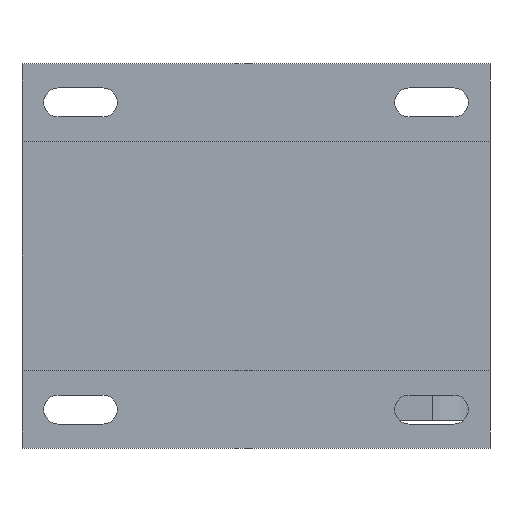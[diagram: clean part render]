
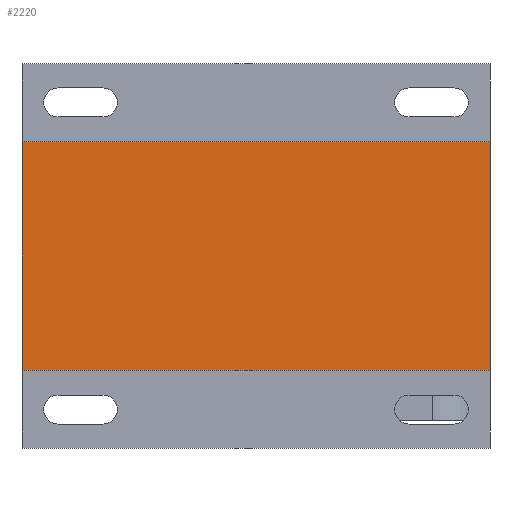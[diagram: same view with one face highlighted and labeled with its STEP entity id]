
A CAD part, front view. The second image highlights one B-rep face of the part: STEP entity #2220.
In plain terms, the highlighted planar face has unit normal (0, -1, 0).
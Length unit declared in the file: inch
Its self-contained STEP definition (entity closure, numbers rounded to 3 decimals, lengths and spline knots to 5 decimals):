
#101=PLANE('',#2369);
#183=FACE_OUTER_BOUND('',#312,.T.);
#312=EDGE_LOOP('',(#1616,#1617,#1618,#1619));
#524=LINE('',#3344,#736);
#528=LINE('',#3353,#740);
#530=LINE('',#3356,#742);
#531=LINE('',#3357,#743);
#736=VECTOR('',#2674,4.2);
#740=VECTOR('',#2680,4.2);
#742=VECTOR('',#2684,2.05);
#743=VECTOR('',#2685,2.05);
#1043=VERTEX_POINT('',#3341);
#1044=VERTEX_POINT('',#3343);
#1047=VERTEX_POINT('',#3350);
#1048=VERTEX_POINT('',#3352);
#1282=EDGE_CURVE('',#1043,#1044,#524,.T.);
#1286=EDGE_CURVE('',#1047,#1048,#528,.T.);
#1288=EDGE_CURVE('',#1044,#1047,#530,.T.);
#1289=EDGE_CURVE('',#1048,#1043,#531,.T.);
#1616=ORIENTED_EDGE('',*,*,#1286,.F.);
#1617=ORIENTED_EDGE('',*,*,#1288,.F.);
#1618=ORIENTED_EDGE('',*,*,#1282,.F.);
#1619=ORIENTED_EDGE('',*,*,#1289,.F.);
#2220=ADVANCED_FACE('',(#183),#101,.F.);
#2369=AXIS2_PLACEMENT_3D('',#3355,#2682,#2683);
#2674=DIRECTION('',(1.,0.,0.));
#2680=DIRECTION('',(-1.,0.,0.));
#2682=DIRECTION('center_axis',(0.,1.,0.));
#2683=DIRECTION('ref_axis',(0.,0.,1.));
#2684=DIRECTION('',(0.,0.,-1.));
#2685=DIRECTION('',(0.,0.,1.));
#3341=CARTESIAN_POINT('',(-2.475,-1.5725,1.25));
#3343=CARTESIAN_POINT('',(1.725,-1.5725,1.25));
#3344=CARTESIAN_POINT('',(-2.475,-1.5725,1.25));
#3350=CARTESIAN_POINT('',(1.725,-1.5725,-0.8));
#3352=CARTESIAN_POINT('',(-2.475,-1.5725,-0.8));
#3353=CARTESIAN_POINT('',(1.725,-1.5725,-0.8));
#3355=CARTESIAN_POINT('Origin',(-0.375,-1.5725,0.225));
#3356=CARTESIAN_POINT('',(1.725,-1.5725,0.7375));
#3357=CARTESIAN_POINT('',(-2.475,-1.5725,0.22872));
